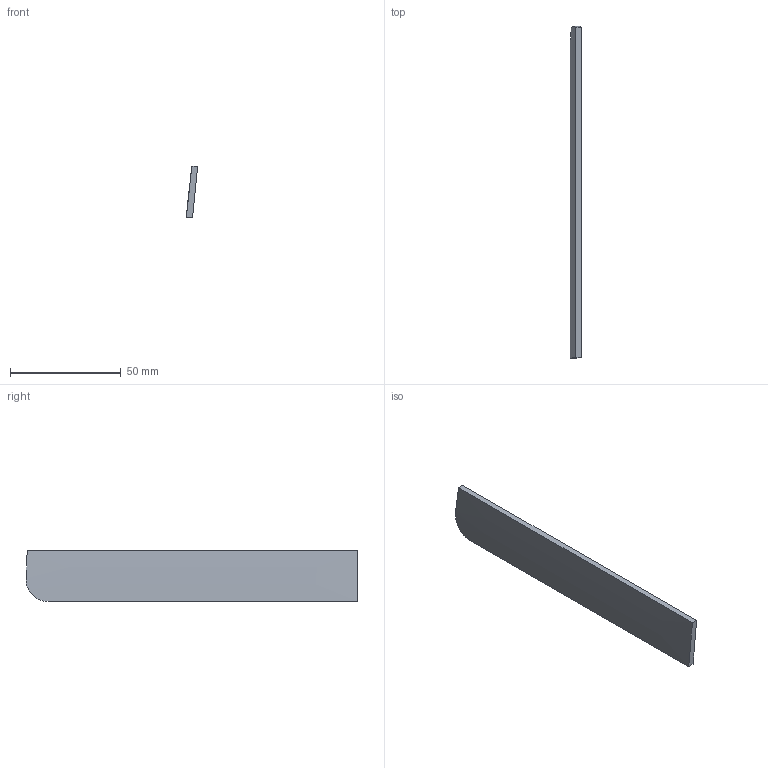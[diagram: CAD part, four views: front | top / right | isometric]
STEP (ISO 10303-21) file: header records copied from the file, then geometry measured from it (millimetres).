
FILE_DESCRIPTION(('Open CASCADE Model'),'2;1');
FILE_NAME('Open CASCADE Shape Model','2026-11-03T04:29:37',('Author'),( 'Open CASCADE'),'Open CASCADE STEP processor 7.8','Open CASCADE 7.8' ,'Unknown');
FILE_SCHEMA(('AUTOMOTIVE_DESIGN { 1 0 10303 214 1 1 1 1 }'));
Length unit declared in the file: millimetre
Products named in the file (1): Open CASCADE STEP translator 7.8 49
Bounding box: 5.08 x 149.57 x 23 mm (x, y, z)
Volume: 9279.7 mm3; surface area: 7792.1 mm2
Topology: 1 solids, 1 shells, 7 faces, 15 edges, 10 vertices
Faces by surface type: plane 4, bspline 2, cylinder 1
Entity records: 613 total; most frequent: CARTESIAN_POINT 356, B_SPLINE_CURVE_WITH_KNOTS 34, ORIENTED_EDGE 30, PCURVE 30, DEFINITIONAL_REPRESENTATION 30, DIRECTION 23, EDGE_CURVE 15, SURFACE_CURVE 15
